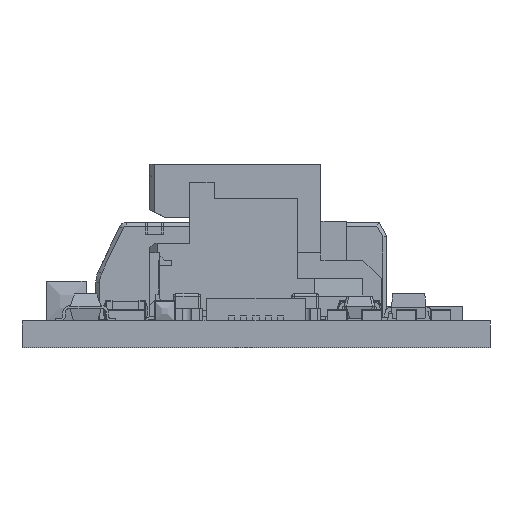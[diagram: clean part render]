
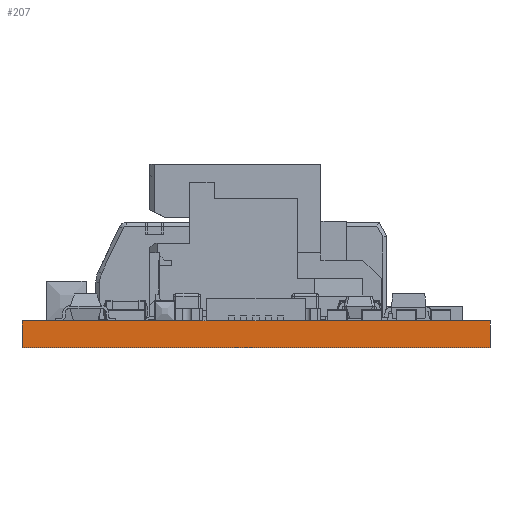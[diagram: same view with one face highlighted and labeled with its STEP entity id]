
A CAD part, left-side view. The second image highlights one B-rep face of the part: STEP entity #207.
In plain terms, the highlighted planar face has unit normal (-1, 0, 0).
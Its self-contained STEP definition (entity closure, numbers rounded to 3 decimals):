
#182 = VERTEX_POINT('',#183);
#183 = CARTESIAN_POINT('',(0.,19.,1.091));
#189 = EDGE_CURVE('',#190,#182,#192,.T.);
#190 = VERTEX_POINT('',#191);
#191 = CARTESIAN_POINT('',(0.,19.,0.));
#192 = LINE('',#193,#194);
#193 = CARTESIAN_POINT('',(0.,19.,0.));
#194 = VECTOR('',#195,1.);
#195 = DIRECTION('',(0.,0.,1.));
#207 = ADVANCED_FACE('',(#208),#233,.F.);
#208 = FACE_BOUND('',#209,.F.);
#209 = EDGE_LOOP('',(#210,#211,#219,#227));
#210 = ORIENTED_EDGE('',*,*,#189,.T.);
#211 = ORIENTED_EDGE('',*,*,#212,.T.);
#212 = EDGE_CURVE('',#182,#213,#215,.T.);
#213 = VERTEX_POINT('',#214);
#214 = CARTESIAN_POINT('',(0.,0.,1.091));
#215 = LINE('',#216,#217);
#216 = CARTESIAN_POINT('',(0.,19.,1.091));
#217 = VECTOR('',#218,1.);
#218 = DIRECTION('',(0.,-1.,0.));
#219 = ORIENTED_EDGE('',*,*,#220,.F.);
#220 = EDGE_CURVE('',#221,#213,#223,.T.);
#221 = VERTEX_POINT('',#222);
#222 = CARTESIAN_POINT('',(0.,0.,0.));
#223 = LINE('',#224,#225);
#224 = CARTESIAN_POINT('',(0.,0.,0.));
#225 = VECTOR('',#226,1.);
#226 = DIRECTION('',(0.,0.,1.));
#227 = ORIENTED_EDGE('',*,*,#228,.F.);
#228 = EDGE_CURVE('',#190,#221,#229,.T.);
#229 = LINE('',#230,#231);
#230 = CARTESIAN_POINT('',(0.,19.,0.));
#231 = VECTOR('',#232,1.);
#232 = DIRECTION('',(0.,-1.,0.));
#233 = PLANE('',#234);
#234 = AXIS2_PLACEMENT_3D('',#235,#236,#237);
#235 = CARTESIAN_POINT('',(0.,19.,0.));
#236 = DIRECTION('',(1.,0.,0.));
#237 = DIRECTION('',(0.,-1.,0.));
